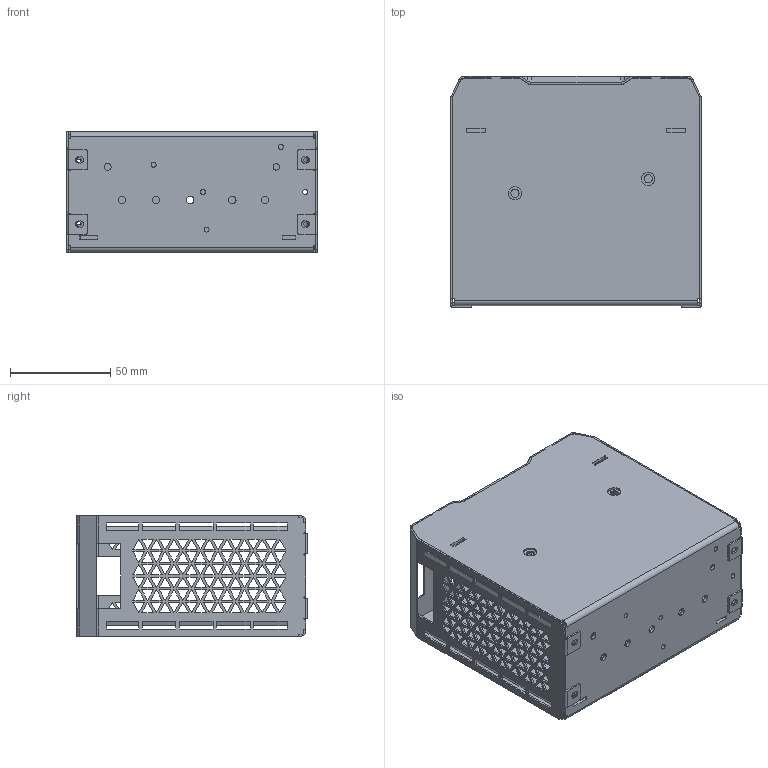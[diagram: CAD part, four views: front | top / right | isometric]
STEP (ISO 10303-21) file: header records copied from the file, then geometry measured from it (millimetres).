
FILE_DESCRIPTION (( 'STEP AP203' ), '1' );
FILE_NAME ('ZDR5-120~240 - MAIOR.STEP', '2026-07-27T11:04:44', ( '' ), ( '' ), 'SwSTEP 2.0', 'SolidWorks 2019', '' );
FILE_SCHEMA (( 'CONFIG_CONTROL_DESIGN' ));
Length unit declared in the file: millimetre
Products named in the file (1): ZDR5-120~240 - MAIOR
Bounding box: 125 x 115.25 x 60 mm (x, y, z)
Volume: 63955.4 mm3; surface area: 106626.8 mm2
Topology: 2 solids, 2 shells, 1228 faces, 3612 edges, 2392 vertices
Faces by surface type: plane 1022, cylinder 202, bspline 4
Entity records: 41495 total; most frequent: CARTESIAN_POINT 7361, ORIENTED_EDGE 7224, DIRECTION 6430, EDGE_CURVE 3612, LINE 3196, VECTOR 3196, VERTEX_POINT 2392, EDGE_LOOP 1768
